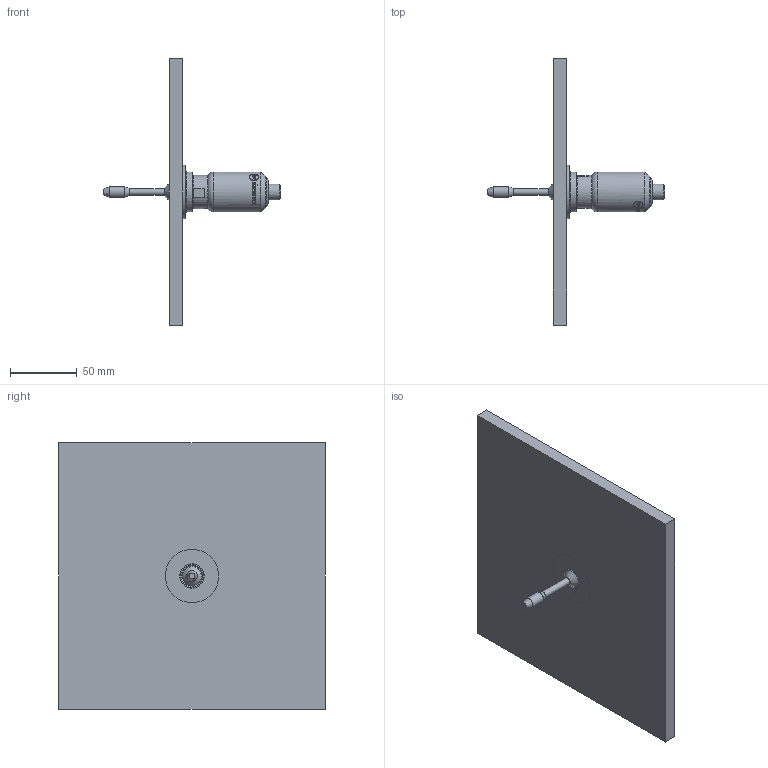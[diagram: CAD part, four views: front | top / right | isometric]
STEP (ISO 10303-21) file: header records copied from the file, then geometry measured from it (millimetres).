
FILE_DESCRIPTION(/* description */ ('Unknown'),/* implementation_level */ '2;1');
FILE_NAME(/* name */ 'Rheonics_SRV-X1-12G_HAW-12G-OTK2',/* time_stamp */ '2025-01-22T13:18:35-05:00',/* author */ ('Unknown'),/* organization */ ('Unknown'),/* preprocessor_version */ 'ST-DEVELOPER v16.7',/* originating_system */ 'Solid Edge',/* authorisation */ 'Unknown');
FILE_SCHEMA (('AUTOMOTIVE_DESIGN {1 0 10303 214 3 1 1}'));
Length unit declared in the file: millimetre
Products named in the file (5): Rheonics_SRV-X1-12G_HAW-12G-OTK2; TankWall; HAW-12G-OTK_Gen-2; G0.5-Oring; SRV-X1-12G
Assembly tree (4 placements, depth 2):
  Rheonics_SRV-X1-12G_HAW-12G-OTK2
    TankWall
    HAW-12G-OTK_Gen-2
    G0.5-Oring
    SRV-X1-12G
Bounding box: 133.13 x 200 x 200 mm (x, y, z)
Volume: 444468.1 mm3; surface area: 100952.4 mm2
Topology: 4 solids, 4 shells, 197 faces, 504 edges, 323 vertices
Faces by surface type: bspline 75, plane 49, cylinder 42, cone 16, sphere 8, torus 7
Full cylindrical faces by diameter (mm): 0.8 x8, 3.2 x1, 5.019 x1, 8 x2, 12 x1, 13.9 x1, 18 x1, 18.631 x1, 20.955 x1, 22 x1, 25 x1, 30 x2, 40 x2
Entity records: 10166 total; most frequent: CARTESIAN_POINT 4884, ORIENTED_EDGE 830, DIRECTION 583, EDGE_CURVE 415, VERTEX_POINT 296, FACE_BOUND 273, EDGE_LOOP 272, AXIS2_PLACEMENT_3D 220
